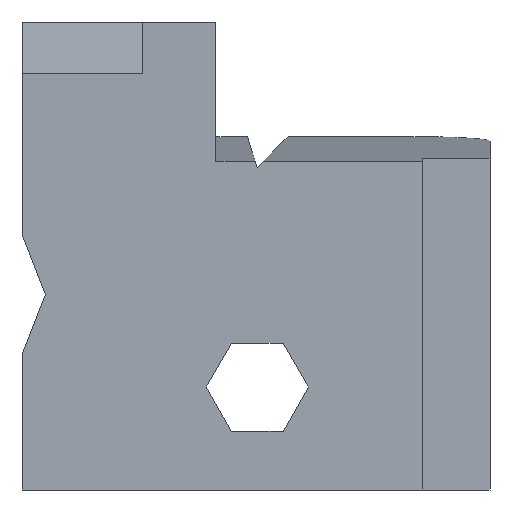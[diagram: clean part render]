
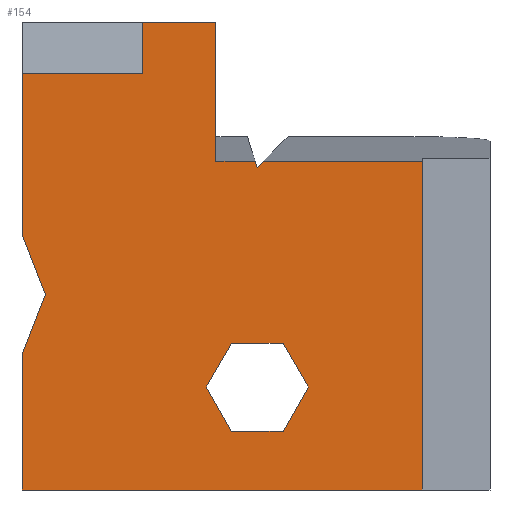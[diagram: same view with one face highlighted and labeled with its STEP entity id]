
A CAD part, left-side view. The second image highlights one B-rep face of the part: STEP entity #154.
In plain terms, the highlighted planar face has unit normal (-1, 0, 0).
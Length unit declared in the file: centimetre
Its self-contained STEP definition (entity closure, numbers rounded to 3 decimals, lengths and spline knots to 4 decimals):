
#9 = VECTOR ( 'NONE', #323, 100. ) ;
#11 = CARTESIAN_POINT ( 'NONE',  ( 0., 1000., 0. ) ) ;
#18 = EDGE_CURVE ( 'NONE', #885, #359, #188, .T. ) ;
#24 = LINE ( 'NONE', #963, #522 ) ;
#26 = VERTEX_POINT ( 'NONE', #423 ) ;
#30 = DIRECTION ( 'NONE',  ( 0., 0.303, 0.953 ) ) ;
#36 = CARTESIAN_POINT ( 'NONE',  ( 0., 144.582, 702.373 ) ) ;
#43 = FACE_BOUND ( 'NONE', #535, .T. ) ;
#48 = ORIENTED_EDGE ( 'NONE', *, *, #813, .T. ) ;
#55 = ORIENTED_EDGE ( 'NONE', *, *, #421, .T. ) ;
#57 = CARTESIAN_POINT ( 'NONE',  ( 0., 144.582, 834.7538 ) ) ;
#82 = LINE ( 'NONE', #710, #237 ) ;
#102 = ORIENTED_EDGE ( 'NONE', *, *, #18, .F. ) ;
#111 = CARTESIAN_POINT ( 'NONE',  ( 0., 388.2501, 220.0691 ) ) ;
#115 = VERTEX_POINT ( 'NONE', #292 ) ;
#117 = CARTESIAN_POINT ( 'NONE',  ( 0., 1000., 289.0321 ) ) ;
#120 = CARTESIAN_POINT ( 'NONE',  ( 0., 552.3252, 313.926 ) ) ;
#136 = VECTOR ( 'NONE', #688, 100. ) ;
#142 = VECTOR ( 'NONE', #443, 100. ) ;
#143 = EDGE_CURVE ( 'NONE', #294, #573, #503, .T. ) ;
#148 = CARTESIAN_POINT ( 'NONE',  ( 0., 950., 417.2707 ) ) ;
#152 = DIRECTION ( 'NONE',  ( 0., -1., 0. ) ) ;
#154 = ADVANCED_FACE ( 'NONE', ( #357, #43 ), #666, .F. ) ;
#168 = LINE ( 'NONE', #720, #564 ) ;
#171 = CARTESIAN_POINT ( 'NONE',  ( 0., 950., 417.2707 ) ) ;
#172 = VECTOR ( 'NONE', #646, 100. ) ;
#180 = CARTESIAN_POINT ( 'NONE',  ( 0., 1000., 1000. ) ) ;
#183 = VECTOR ( 'NONE', #809, 100. ) ;
#187 = CARTESIAN_POINT ( 'NONE',  ( 0., 742.4534, 1000. ) ) ;
#188 = LINE ( 'NONE', #180, #315 ) ;
#215 = LINE ( 'NONE', #148, #957 ) ;
#218 = EDGE_CURVE ( 'NONE', #376, #264, #168, .T. ) ;
#223 = DIRECTION ( 'NONE',  ( 0., 0.363, 0.932 ) ) ;
#237 = VECTOR ( 'NONE', #633, 100. ) ;
#238 = EDGE_CURVE ( 'NONE', #812, #291, #24, .T. ) ;
#243 = CARTESIAN_POINT ( 'NONE',  ( 0., 606.0102, 220.0691 ) ) ;
#245 = LINE ( 'NONE', #11, #9 ) ;
#246 = EDGE_CURVE ( 'NONE', #951, #264, #406, .T. ) ;
#247 = CARTESIAN_POINT ( 'NONE',  ( 0., 501.649, 702.373 ) ) ;
#248 = ORIENTED_EDGE ( 'NONE', *, *, #143, .F. ) ;
#249 = LINE ( 'NONE', #545, #772 ) ;
#261 = VECTOR ( 'NONE', #789, 100. ) ;
#262 = LINE ( 'NONE', #653, #393 ) ;
#264 = VERTEX_POINT ( 'NONE', #247 ) ;
#291 = VERTEX_POINT ( 'NONE', #944 ) ;
#292 = CARTESIAN_POINT ( 'NONE',  ( 0., 552.3252, 313.926 ) ) ;
#294 = VERTEX_POINT ( 'NONE', #482 ) ;
#296 = EDGE_CURVE ( 'NONE', #26, #885, #328, .T. ) ;
#298 = CARTESIAN_POINT ( 'NONE',  ( 0., 441.9351, 125.3403 ) ) ;
#303 = LINE ( 'NONE', #752, #136 ) ;
#312 = EDGE_CURVE ( 'NONE', #359, #951, #262, .T. ) ;
#315 = VECTOR ( 'NONE', #661, 100. ) ;
#323 = DIRECTION ( 'NONE',  ( 0., -1., 0. ) ) ;
#325 = CARTESIAN_POINT ( 'NONE',  ( 0., 388.2501, 220.0691 ) ) ;
#328 = LINE ( 'NONE', #187, #261 ) ;
#340 = ORIENTED_EDGE ( 'NONE', *, *, #246, .F. ) ;
#342 = CARTESIAN_POINT ( 'NONE',  ( 0., 552.3252, 125.3403 ) ) ;
#349 = VECTOR ( 'NONE', #366, 100. ) ;
#351 = DIRECTION ( 'NONE',  ( 0., 0., -1. ) ) ;
#357 = FACE_OUTER_BOUND ( 'NONE', #569, .T. ) ;
#359 = VERTEX_POINT ( 'NONE', #904 ) ;
#365 = CARTESIAN_POINT ( 'NONE',  ( 0., 1000., 1000. ) ) ;
#366 = DIRECTION ( 'NONE',  ( 0., 0., -1. ) ) ;
#376 = VERTEX_POINT ( 'NONE', #464 ) ;
#385 = ORIENTED_EDGE ( 'NONE', *, *, #891, .T. ) ;
#393 = VECTOR ( 'NONE', #635, 100. ) ;
#394 = DIRECTION ( 'NONE',  ( 0., -0.497, 0.868 ) ) ;
#395 = AXIS2_PLACEMENT_3D ( 'NONE', #976, #512, #586 ) ;
#398 = DIRECTION ( 'NONE',  ( 0., 1., 0. ) ) ;
#401 = EDGE_CURVE ( 'NONE', #573, #291, #215, .T. ) ;
#406 = LINE ( 'NONE', #575, #172 ) ;
#421 = EDGE_CURVE ( 'NONE', #294, #994, #610, .T. ) ;
#423 = CARTESIAN_POINT ( 'NONE',  ( 0., 742.4534, 889.7385 ) ) ;
#426 = LINE ( 'NONE', #120, #142 ) ;
#428 = ORIENTED_EDGE ( 'NONE', *, *, #218, .T. ) ;
#441 = VERTEX_POINT ( 'NONE', #243 ) ;
#443 = DIRECTION ( 'NONE',  ( 0., -1., 0. ) ) ;
#446 = ORIENTED_EDGE ( 'NONE', *, *, #541, .T. ) ;
#449 = CARTESIAN_POINT ( 'NONE',  ( 0., 742.4534, 1000. ) ) ;
#453 = VERTEX_POINT ( 'NONE', #622 ) ;
#462 = CARTESIAN_POINT ( 'NONE',  ( 0., 1000., 0. ) ) ;
#463 = EDGE_CURVE ( 'NONE', #821, #925, #550, .T. ) ;
#464 = CARTESIAN_POINT ( 'NONE',  ( 0., 497.4762, 689.2717 ) ) ;
#480 = ORIENTED_EDGE ( 'NONE', *, *, #903, .F. ) ;
#482 = CARTESIAN_POINT ( 'NONE',  ( 0., 1000., 289.0321 ) ) ;
#484 = EDGE_CURVE ( 'NONE', #441, #115, #856, .T. ) ;
#495 = ORIENTED_EDGE ( 'NONE', *, *, #463, .T. ) ;
#496 = DIRECTION ( 'NONE',  ( 0., 0.707, -0.707 ) ) ;
#503 = LINE ( 'NONE', #117, #621 ) ;
#507 = CARTESIAN_POINT ( 'NONE',  ( 0., 1000., 889.7385 ) ) ;
#512 = DIRECTION ( 'NONE',  ( 1., 0., 0. ) ) ;
#522 = VECTOR ( 'NONE', #351, 100. ) ;
#526 = VECTOR ( 'NONE', #152, 100. ) ;
#531 = ORIENTED_EDGE ( 'NONE', *, *, #312, .F. ) ;
#533 = VECTOR ( 'NONE', #496, 100. ) ;
#535 = EDGE_LOOP ( 'NONE', ( #495, #446, #48, #785, #993, #385 ) ) ;
#541 = EDGE_CURVE ( 'NONE', #925, #733, #249, .T. ) ;
#543 = CARTESIAN_POINT ( 'NONE',  ( 0., 585.605, 702.373 ) ) ;
#545 = CARTESIAN_POINT ( 'NONE',  ( 0., 441.9351, 125.3403 ) ) ;
#550 = LINE ( 'NONE', #325, #852 ) ;
#564 = VECTOR ( 'NONE', #30, 100. ) ;
#568 = ORIENTED_EDGE ( 'NONE', *, *, #770, .T. ) ;
#569 = EDGE_LOOP ( 'NONE', ( #480, #668, #568, #428, #340, #531, #102, #985, #761, #898, #762, #248, #55, #597 ) ) ;
#573 = VERTEX_POINT ( 'NONE', #171 ) ;
#574 = LINE ( 'NONE', #796, #533 ) ;
#575 = CARTESIAN_POINT ( 'NONE',  ( 0., 585.605, 702.373 ) ) ;
#586 = DIRECTION ( 'NONE',  ( 0., 0., -1. ) ) ;
#596 = CARTESIAN_POINT ( 'NONE',  ( 0., 484.3749, 702.373 ) ) ;
#597 = ORIENTED_EDGE ( 'NONE', *, *, #665, .T. ) ;
#610 = LINE ( 'NONE', #365, #937 ) ;
#611 = CARTESIAN_POINT ( 'NONE',  ( 0., 144.582, 0. ) ) ;
#621 = VECTOR ( 'NONE', #908, 100. ) ;
#622 = CARTESIAN_POINT ( 'NONE',  ( 0., 441.9351, 313.926 ) ) ;
#629 = DIRECTION ( 'NONE',  ( 0., 0.493, -0.87 ) ) ;
#633 = DIRECTION ( 'NONE',  ( 0., 1., 0. ) ) ;
#635 = DIRECTION ( 'NONE',  ( 0., 0., -1. ) ) ;
#646 = DIRECTION ( 'NONE',  ( 0., -1., 0. ) ) ;
#653 = CARTESIAN_POINT ( 'NONE',  ( 0., 585.605, 702.373 ) ) ;
#661 = DIRECTION ( 'NONE',  ( 0., -1., 0. ) ) ;
#665 = EDGE_CURVE ( 'NONE', #994, #893, #245, .T. ) ;
#666 = PLANE ( 'NONE',  #395 ) ;
#668 = ORIENTED_EDGE ( 'NONE', *, *, #967, .F. ) ;
#686 = EDGE_CURVE ( 'NONE', #26, #812, #82, .T. ) ;
#688 = DIRECTION ( 'NONE',  ( 0., -0.497, -0.868 ) ) ;
#710 = CARTESIAN_POINT ( 'NONE',  ( 0., 742.4534, 889.7385 ) ) ;
#720 = CARTESIAN_POINT ( 'NONE',  ( 0., 548.1836, 848.474 ) ) ;
#733 = VERTEX_POINT ( 'NONE', #342 ) ;
#752 = CARTESIAN_POINT ( 'NONE',  ( 0., 441.9351, 313.926 ) ) ;
#761 = ORIENTED_EDGE ( 'NONE', *, *, #686, .T. ) ;
#762 = ORIENTED_EDGE ( 'NONE', *, *, #401, .F. ) ;
#770 = EDGE_CURVE ( 'NONE', #916, #376, #574, .T. ) ;
#771 = LINE ( 'NONE', #999, #526 ) ;
#772 = VECTOR ( 'NONE', #398, 100. ) ;
#785 = ORIENTED_EDGE ( 'NONE', *, *, #484, .T. ) ;
#789 = DIRECTION ( 'NONE',  ( 0., 0., 1. ) ) ;
#796 = CARTESIAN_POINT ( 'NONE',  ( 0., 497.4762, 689.2717 ) ) ;
#802 = VECTOR ( 'NONE', #394, 100. ) ;
#804 = CARTESIAN_POINT ( 'NONE',  ( 0., 552.3252, 125.3403 ) ) ;
#809 = DIRECTION ( 'NONE',  ( 0., 0.493, 0.87 ) ) ;
#812 = VERTEX_POINT ( 'NONE', #507 ) ;
#813 = EDGE_CURVE ( 'NONE', #733, #441, #814, .T. ) ;
#814 = LINE ( 'NONE', #804, #183 ) ;
#818 = EDGE_CURVE ( 'NONE', #115, #453, #426, .T. ) ;
#821 = VERTEX_POINT ( 'NONE', #111 ) ;
#827 = VERTEX_POINT ( 'NONE', #36 ) ;
#852 = VECTOR ( 'NONE', #629, 100. ) ;
#856 = LINE ( 'NONE', #862, #802 ) ;
#862 = CARTESIAN_POINT ( 'NONE',  ( 0., 606.0102, 220.0691 ) ) ;
#885 = VERTEX_POINT ( 'NONE', #449 ) ;
#891 = EDGE_CURVE ( 'NONE', #453, #821, #303, .T. ) ;
#893 = VERTEX_POINT ( 'NONE', #611 ) ;
#898 = ORIENTED_EDGE ( 'NONE', *, *, #238, .T. ) ;
#903 = EDGE_CURVE ( 'NONE', #827, #893, #984, .T. ) ;
#904 = CARTESIAN_POINT ( 'NONE',  ( 0., 585.605, 1000. ) ) ;
#908 = DIRECTION ( 'NONE',  ( 0., -0.363, 0.932 ) ) ;
#916 = VERTEX_POINT ( 'NONE', #596 ) ;
#919 = DIRECTION ( 'NONE',  ( 0., 0., -1. ) ) ;
#925 = VERTEX_POINT ( 'NONE', #298 ) ;
#937 = VECTOR ( 'NONE', #919, 100. ) ;
#944 = CARTESIAN_POINT ( 'NONE',  ( 0., 1000., 545.5093 ) ) ;
#951 = VERTEX_POINT ( 'NONE', #543 ) ;
#957 = VECTOR ( 'NONE', #223, 100. ) ;
#963 = CARTESIAN_POINT ( 'NONE',  ( 0., 1000., 1000. ) ) ;
#967 = EDGE_CURVE ( 'NONE', #916, #827, #771, .T. ) ;
#976 = CARTESIAN_POINT ( 'NONE',  ( 0., 1000., 1000. ) ) ;
#984 = LINE ( 'NONE', #57, #349 ) ;
#985 = ORIENTED_EDGE ( 'NONE', *, *, #296, .F. ) ;
#993 = ORIENTED_EDGE ( 'NONE', *, *, #818, .T. ) ;
#994 = VERTEX_POINT ( 'NONE', #462 ) ;
#999 = CARTESIAN_POINT ( 'NONE',  ( 0., 585.605, 702.373 ) ) ;
